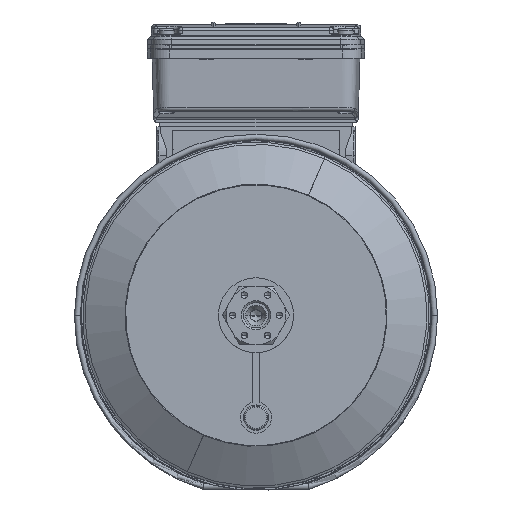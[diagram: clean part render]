
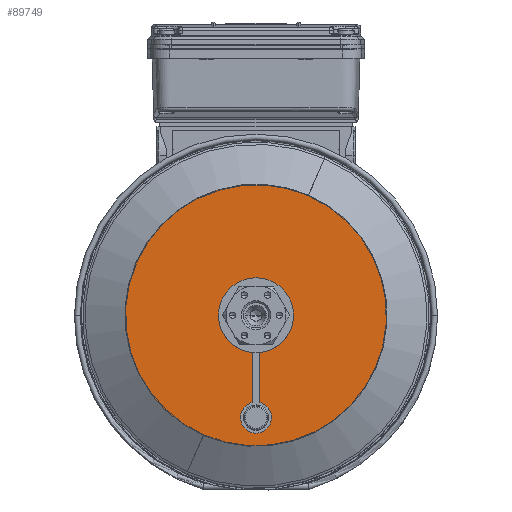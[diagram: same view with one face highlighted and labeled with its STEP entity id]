
A CAD part, top view. The second image highlights one B-rep face of the part: STEP entity #89749.
In plain terms, the highlighted planar face has unit normal (0, 0, 1) as drawn and (0, -1, 0) by its records, which use the part's own axes.
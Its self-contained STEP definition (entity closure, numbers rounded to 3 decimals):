
#634 = AXIS2_PLACEMENT_3D ( 'NONE', #98674, #43115, #107977 ) ;
#3698 = VERTEX_POINT ( 'NONE', #84812 ) ;
#7287 = EDGE_CURVE ( 'NONE', #90484, #3698, #104692, .T. ) ;
#7931 = CIRCLE ( 'NONE', #58852, 13.5 ) ;
#13215 = PLANE ( 'NONE',  #39188 ) ;
#15079 = AXIS2_PLACEMENT_3D ( 'NONE', #37217, #102088, #46544 ) ;
#19624 = EDGE_LOOP ( 'NONE', ( #74702, #69745 ) ) ;
#22510 = DIRECTION ( 'NONE',  ( 0., -1., 0. ) ) ;
#29372 = DIRECTION ( 'NONE',  ( 0., 1., 0. ) ) ;
#31952 = CARTESIAN_POINT ( 'NONE',  ( 0., 0., -13.5 ) ) ;
#37217 = CARTESIAN_POINT ( 'NONE',  ( 0., 0., 0. ) ) ;
#39188 = AXIS2_PLACEMENT_3D ( 'NONE', #96376, #22510, #87454 ) ;
#41419 = FACE_OUTER_BOUND ( 'NONE', #68669, .T. ) ;
#43115 = DIRECTION ( 'NONE',  ( 0., 1., 0. ) ) ;
#46544 = DIRECTION ( 'NONE',  ( 0., 0., 1. ) ) ;
#52430 = VERTEX_POINT ( 'NONE', #65046 ) ;
#54400 = ORIENTED_EDGE ( 'NONE', *, *, #7287, .F. ) ;
#55094 = DIRECTION ( 'NONE',  ( 0., 1., 0. ) ) ;
#58761 = ORIENTED_EDGE ( 'NONE', *, *, #59862, .F. ) ;
#58852 = AXIS2_PLACEMENT_3D ( 'NONE', #84947, #29372, #94274 ) ;
#59862 = EDGE_CURVE ( 'NONE', #3698, #90484, #114364, .T. ) ;
#62080 = EDGE_CURVE ( 'NONE', #102332, #52430, #7931, .T. ) ;
#63180 = FACE_BOUND ( 'NONE', #19624, .T. ) ;
#65046 = CARTESIAN_POINT ( 'NONE',  ( 0., 0., 13.5 ) ) ;
#68669 = EDGE_LOOP ( 'NONE', ( #54400, #58761 ) ) ;
#69745 = ORIENTED_EDGE ( 'NONE', *, *, #62080, .T. ) ;
#74702 = ORIENTED_EDGE ( 'NONE', *, *, #78051, .T. ) ;
#78051 = EDGE_CURVE ( 'NONE', #52430, #102332, #100614, .T. ) ;
#84812 = CARTESIAN_POINT ( 'NONE',  ( 0., 0., -67.5 ) ) ;
#84947 = CARTESIAN_POINT ( 'NONE',  ( 0., 0., 0. ) ) ;
#87454 = DIRECTION ( 'NONE',  ( 0., 0., -1. ) ) ;
#89749 = ADVANCED_FACE ( 'NONE', ( #63180, #41419 ), #13215, .T. ) ;
#90484 = VERTEX_POINT ( 'NONE', #97323 ) ;
#94274 = DIRECTION ( 'NONE',  ( 0., 0., 1. ) ) ;
#96376 = CARTESIAN_POINT ( 'NONE',  ( -13.5, 0., 0. ) ) ;
#97323 = CARTESIAN_POINT ( 'NONE',  ( 0., 0., 67.5 ) ) ;
#98674 = CARTESIAN_POINT ( 'NONE',  ( 0., 0., 0. ) ) ;
#100614 = CIRCLE ( 'NONE', #115311, 13.5 ) ;
#102088 = DIRECTION ( 'NONE',  ( 0., 1., 0. ) ) ;
#102332 = VERTEX_POINT ( 'NONE', #31952 ) ;
#104692 = CIRCLE ( 'NONE', #634, 67.5 ) ;
#107977 = DIRECTION ( 'NONE',  ( 0., 0., 1. ) ) ;
#110653 = CARTESIAN_POINT ( 'NONE',  ( 0., 0., 0. ) ) ;
#114364 = CIRCLE ( 'NONE', #15079, 67.5 ) ;
#115311 = AXIS2_PLACEMENT_3D ( 'NONE', #110653, #55094, #119955 ) ;
#119955 = DIRECTION ( 'NONE',  ( 0., 0., 1. ) ) ;
